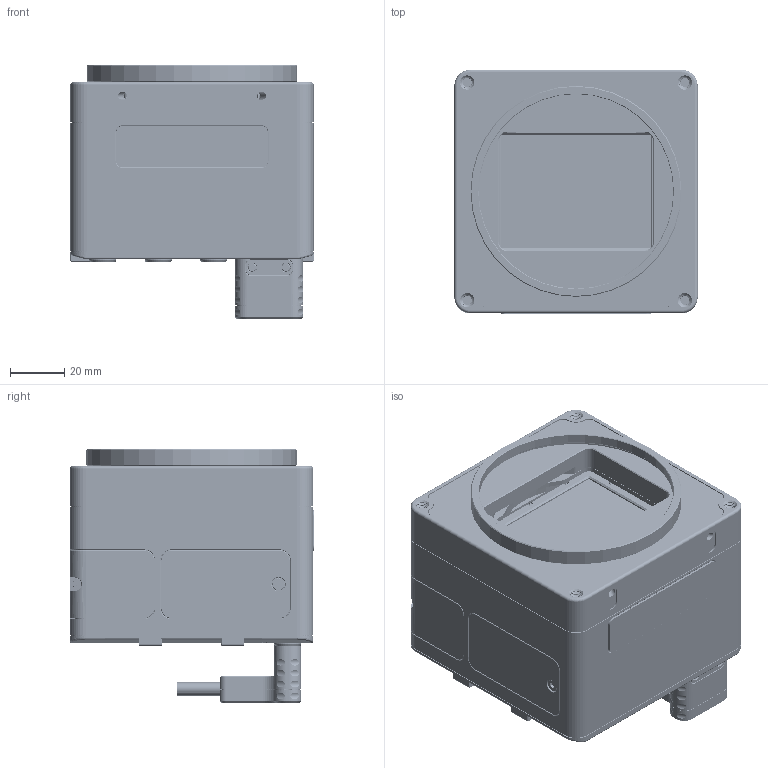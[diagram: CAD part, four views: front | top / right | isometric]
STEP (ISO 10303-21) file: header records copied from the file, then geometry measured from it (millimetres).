
FILE_DESCRIPTION (( 'STEP AP203' ), '1' );
FILE_NAME ('iXM-RS with M72 thread.STEP', '2018-12-04T15:24:03', ( '' ), ( '' ), 'SwSTEP 2.0', 'SolidWorks 2017', '' );
FILE_SCHEMA (( 'CONFIG_CONTROL_DESIGN' ));
Products named in the file (1): iXM-RS with M72 thread
Bounding box: 90.02 x 90.41 x 93.7 mm (x, y, z)
Volume: 140906.4 mm3; surface area: 170524.7 mm2
Topology: 72 solids, 73 shells, 6774 faces, 17596 edges, 11266 vertices
Faces by surface type: plane 2758, cylinder 2368, bspline 914, cone 523, torus 207, sphere 4
Entity records: 315970 total; most frequent: CARTESIAN_POINT 153147, ORIENTED_EDGE 35104, DIRECTION 32493, EDGE_CURVE 17552, AXIS2_PLACEMENT_3D 11495, VERTEX_POINT 11262, VECTOR 9503, LINE 9503
